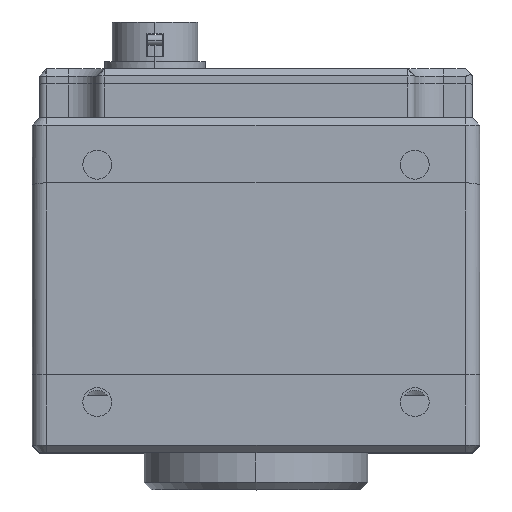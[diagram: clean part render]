
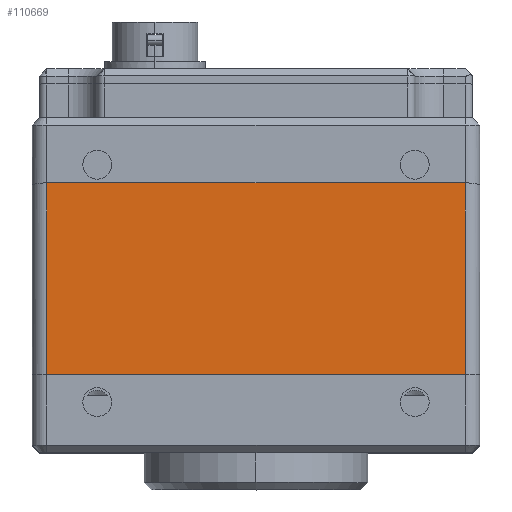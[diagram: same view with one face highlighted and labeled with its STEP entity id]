
A CAD part, top view. The second image highlights one B-rep face of the part: STEP entity #110669.
In plain terms, the highlighted planar face has unit normal (0, 0, 1).
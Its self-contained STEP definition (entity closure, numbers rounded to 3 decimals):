
#5403 = EDGE_LOOP ( 'NONE', ( #27219, #57368, #104712, #98602 ) ) ;
#27219 = ORIENTED_EDGE ( 'NONE', *, *, #42386, .F. ) ;
#35498 = PLANE ( 'NONE',  #95031 ) ;
#39314 = EDGE_CURVE ( 'NONE', #123280, #107615, #120271, .T. ) ;
#42386 = EDGE_CURVE ( 'NONE', #123280, #66642, #134122, .T. ) ;
#42757 = CARTESIAN_POINT ( 'NONE',  ( -111.649, 45.489, 152.223 ) ) ;
#57368 = ORIENTED_EDGE ( 'NONE', *, *, #39314, .T. ) ;
#57918 = DIRECTION ( 'NONE',  ( 0., 0., -1. ) ) ;
#63867 = CARTESIAN_POINT ( 'NONE',  ( -53.649, 43.97, 152.223 ) ) ;
#66642 = VERTEX_POINT ( 'NONE', #75540 ) ;
#71499 = EDGE_CURVE ( 'NONE', #81491, #107615, #117584, .T. ) ;
#71810 = CARTESIAN_POINT ( 'NONE',  ( -82.649, 17.389, 152.223 ) ) ;
#75540 = CARTESIAN_POINT ( 'NONE',  ( -111.649, 43.97, 152.223 ) ) ;
#81491 = VERTEX_POINT ( 'NONE', #63867 ) ;
#82167 = CARTESIAN_POINT ( 'NONE',  ( -113.649, 43.97, 152.223 ) ) ;
#86986 = VECTOR ( 'NONE', #94369, 1000. ) ;
#87839 = VECTOR ( 'NONE', #95291, 1000. ) ;
#91830 = LINE ( 'NONE', #82167, #121595 ) ;
#94369 = DIRECTION ( 'NONE',  ( 1., 0., 0. ) ) ;
#95031 = AXIS2_PLACEMENT_3D ( 'NONE', #124965, #57918, #136288 ) ;
#95291 = DIRECTION ( 'NONE',  ( 0., -1., 0. ) ) ;
#98602 = ORIENTED_EDGE ( 'NONE', *, *, #113297, .F. ) ;
#104712 = ORIENTED_EDGE ( 'NONE', *, *, #71499, .F. ) ;
#107615 = VERTEX_POINT ( 'NONE', #131035 ) ;
#107805 = VECTOR ( 'NONE', #120987, 1000. ) ;
#110669 = ADVANCED_FACE ( 'NONE', ( #111840 ), #35498, .F. ) ;
#111840 = FACE_OUTER_BOUND ( 'NONE', #5403, .T. ) ;
#113297 = EDGE_CURVE ( 'NONE', #66642, #81491, #91830, .T. ) ;
#115885 = DIRECTION ( 'NONE',  ( 1., 0., 0. ) ) ;
#117584 = LINE ( 'NONE', #139913, #87839 ) ;
#120271 = LINE ( 'NONE', #71810, #86986 ) ;
#120577 = CARTESIAN_POINT ( 'NONE',  ( -111.649, 17.389, 152.223 ) ) ;
#120987 = DIRECTION ( 'NONE',  ( 0., 1., 0. ) ) ;
#121595 = VECTOR ( 'NONE', #115885, 1000. ) ;
#123280 = VERTEX_POINT ( 'NONE', #120577 ) ;
#124965 = CARTESIAN_POINT ( 'NONE',  ( -113.649, 45.489, 152.223 ) ) ;
#131035 = CARTESIAN_POINT ( 'NONE',  ( -53.649, 17.389, 152.223 ) ) ;
#134122 = LINE ( 'NONE', #42757, #107805 ) ;
#136288 = DIRECTION ( 'NONE',  ( -1., 0., 0. ) ) ;
#139913 = CARTESIAN_POINT ( 'NONE',  ( -53.649, 45.489, 152.223 ) ) ;
